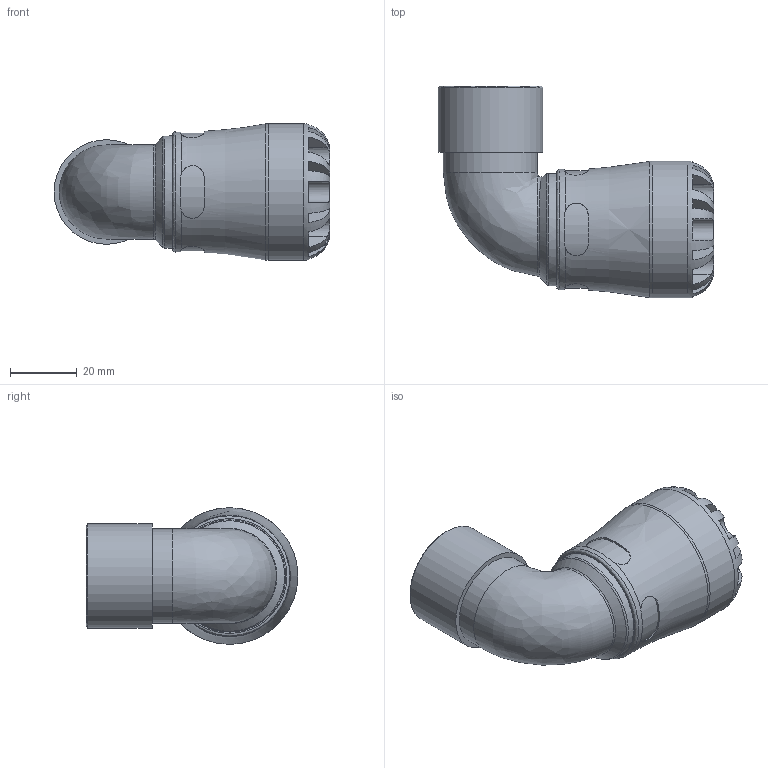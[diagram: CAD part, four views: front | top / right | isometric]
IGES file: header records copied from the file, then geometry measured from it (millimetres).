
Global section: file name: 101500020007_191500020007.ipt; native system: Autodesk Inventor 2015; preprocessor: unknown; author: KIM; date: 20170730.115210; units: millimetre
Bounding box: 82.68 x 63.5 x 41 mm (x, y, z)
Volume: 53922.7 mm3; surface area: 20399.3 mm2
Topology: 1 solids, 1 shells, 110 faces, 287 edges, 183 vertices
Faces by surface type: plane 62, revolution 26, cylinder 17, bspline 4, cone 1
Full cylindrical faces by diameter (mm): 28.217 x1, 31.352 x1, 33.62 x1, 36.08 x1, 41 x1
